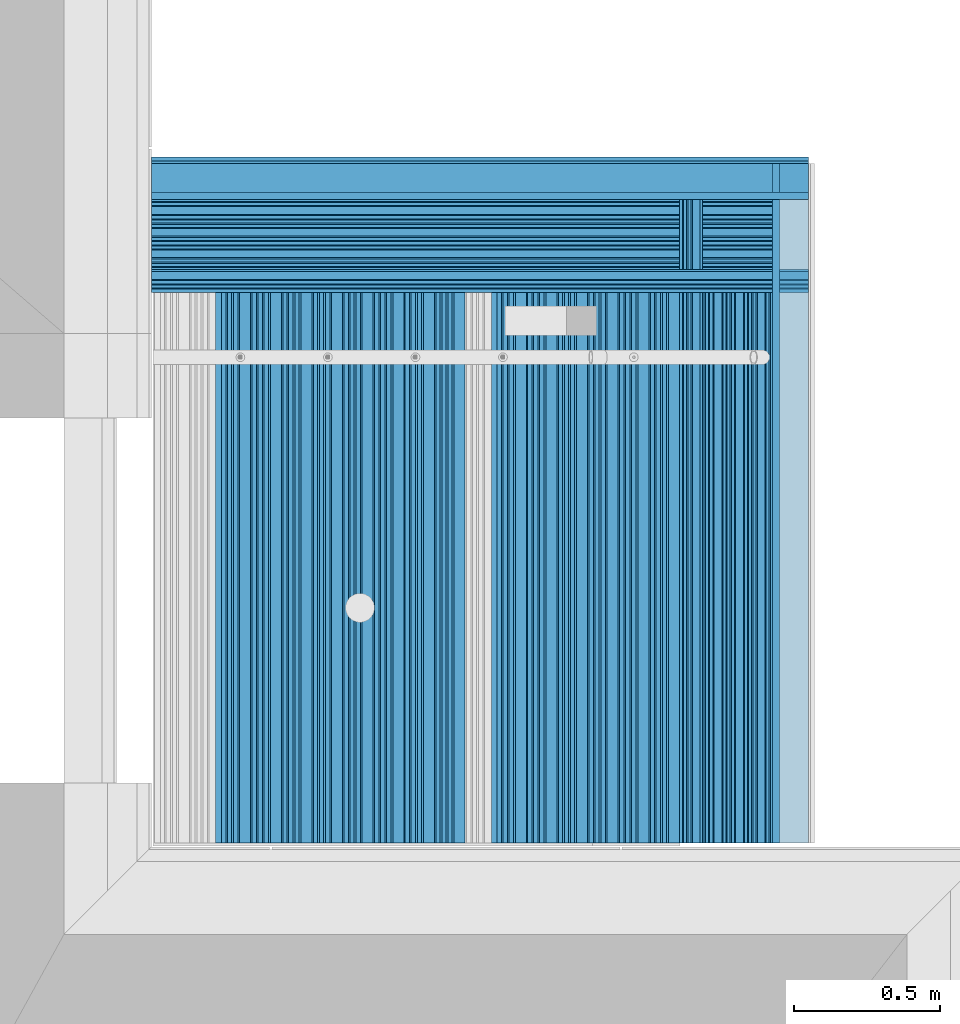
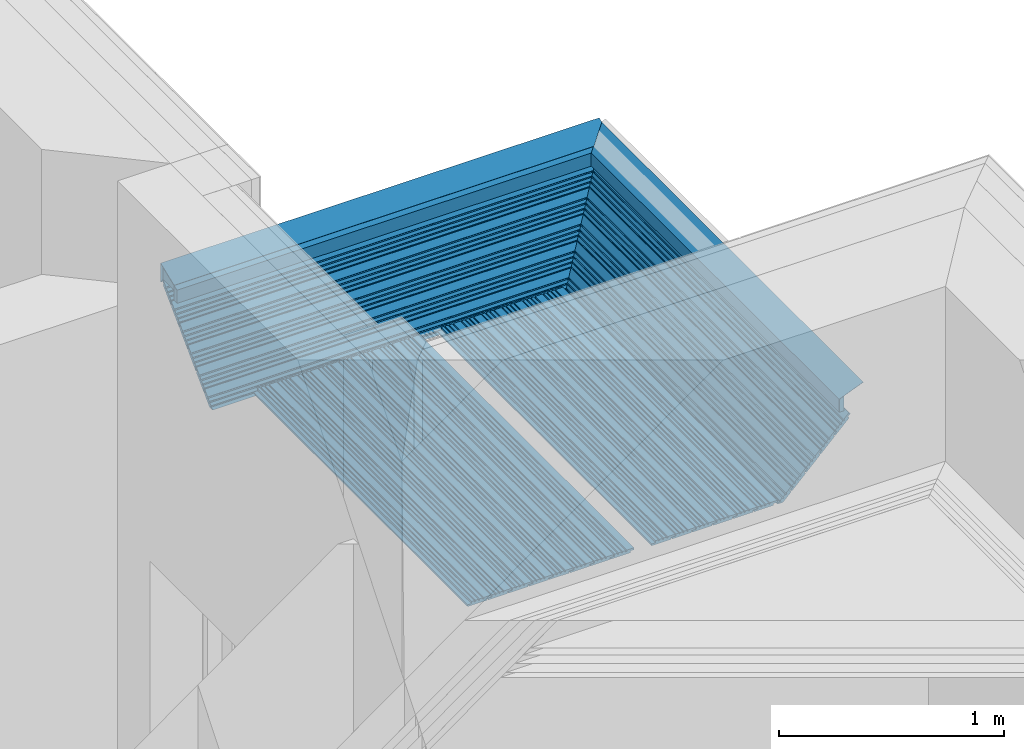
# One storey, part 37 of 418: 31 building element parts, 3 elements without a shape of their own.
"""IFC2X3 building model written with IfcOpenShell, lengths in millimetres."""

from ifc_helpers import new_model, entity, si_unit, converted_unit, derived_unit, money_unit, direction, frame, origin_with_axes, place, context, subcontext, project, spatial, polyline, outline, extrude, material, type_object, element, aggregate, save


model = new_model("IFC2X3")

# Units and contexts
model_context = context("Model", 3, precision=0.01, world=origin_with_axes(), true_north=direction((0.0, 1.0)))
body_context = subcontext(model_context, "Body", "Model", "MODEL_VIEW")
ifc_project = project(units=[si_unit("LENGTHUNIT", "METRE", prefix="MILLI"), si_unit("AREAUNIT", "SQUARE_METRE"), si_unit("VOLUMEUNIT", "CUBIC_METRE"), converted_unit("PLANEANGLEUNIT", "DEGREE", entity("IfcPlaneAngleMeasure", 0.0174532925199), si_unit("PLANEANGLEUNIT", "RADIAN"), dimensions=[0, 0, 0, 0, 0, 0, 0]), si_unit("SOLIDANGLEUNIT", "STERADIAN"), money_unit("EUR"), converted_unit("TIMEUNIT", "Year", entity("IfcTimeMeasure", 31556926.0), si_unit("TIMEUNIT", "SECOND"), dimensions=[0, 0, 1, 0, 0, 0, 0]), si_unit("MASSUNIT", "GRAM", prefix="KILO"), si_unit("THERMODYNAMICTEMPERATUREUNIT", "DEGREE_CELSIUS"), si_unit("LUMINOUSINTENSITYUNIT", "LUMEN"), si_unit("ENERGYUNIT", "JOULE", prefix="MEGA"), derived_unit("THERMALCONDUCTANCEUNIT", [(si_unit("POWERUNIT", "WATT"), 1), (si_unit("LENGTHUNIT", "METRE"), -1), (si_unit("THERMODYNAMICTEMPERATUREUNIT", "KELVIN"), -1)]), derived_unit("SPECIFICHEATCAPACITYUNIT", [(si_unit("ENERGYUNIT", "JOULE"), 1), (si_unit("MASSUNIT", "GRAM", prefix="KILO"), -1), (si_unit("THERMODYNAMICTEMPERATUREUNIT", "KELVIN"), -1)]), derived_unit("MASSDENSITYUNIT", [(si_unit("MASSUNIT", "GRAM", prefix="KILO"), 1), (si_unit("VOLUMEUNIT", "CUBIC_METRE"), -1)])], contexts=[model_context])

# Site, building, storey
site_placement = place(None, origin_with_axes())
site = spatial("IfcSite", under=ifc_project, at=site_placement, Name="Paldiski mnt 245/1, Tallinn, Harjumaa", CompositionType="COMPLEX")
building_placement = place(site_placement, origin_with_axes())
building = spatial("IfcBuilding", under=site, at=building_placement, Name="RKAS Hoone üldnimetus (kasutust iseloomustav) -> IFC Project Manager -> SOLIBRI", CompositionType="ELEMENT")
storey_placement = place(building_placement, origin_with_axes())
storey = spatial("IfcBuildingStorey", under=building, at=storey_placement, Name="Esimene korrus", CompositionType="ELEMENT", Elevation=0.0)

# Proxy, building element parts
building_element_proxy_type_1 = type_object("IfcBuildingElementProxyType", Name="Varikatus_01_02_03_raastas_01_02_03 463 x 518", PredefinedType="NOTDEFINED")
proxy_1_placement = place(storey_placement, frame((-46770.0000001, 8833.7200537, 3002.0), z_axis=(0.0, 0.0, 1.0), x_axis=(1.0, 0.0, 0.0)))
proxy_1 = element("IfcBuildingElementProxy", 1, at=proxy_1_placement, inside=storey, type_object=building_element_proxy_type_1, Name="Varikatus")
ifc_material_1 = material(Name="Laudis 5072 Honka 45 horisontaalne raastas")
building_element_part_1_placement = place(proxy_1_placement, origin_with_axes())
building_element_part_1 = element("IfcBuildingElementPart", 2, at=building_element_part_1_placement, material=ifc_material_1, Name="Laudis 5072 Honka 45 horisontaalne raastas", context=body_context, shape_type="SweptSolid", body=[
    extrude(outline(polyline([(-0.707110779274, -28.991377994), (70.0035572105, -99.7020658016), (77.0746259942, -92.6309996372), (62.9324932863, -78.4888616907), (70.7106681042, -70.7106876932), (60.4037490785, -60.4037652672), (55.4540010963, -65.3535115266), (51.4654463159, -61.3649565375), (56.4151941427, -56.4152087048), (45.9298674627, -45.9298803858), (40.9801194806, -50.8796266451), (36.6477185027, -46.5472250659), (41.5974664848, -41.5974788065), (31.0339169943, -31.0339261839), (26.0841690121, -35.9836724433), (21.5852050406, -31.4847067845), (26.5349528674, -26.5349589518), (0.0, 0.0), (-7.42462197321, -7.42461938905), (6.71751230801, -21.5667571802), (-0.707110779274, -28.991377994)])), frame((0.0, 0.0, 0.0), z_axis=(-1.0, 0.0, 0.0), x_axis=(0.0, -1.0, 0.0)), (0.0, 0.0, -1.0), 2252.35905521),
])
building_element_part_2_placement = place(proxy_1_placement, origin_with_axes())
building_element_part_2 = element("IfcBuildingElementPart", 3, at=building_element_part_2_placement, material=ifc_material_1, Name="Laudis 5072 Honka 45 horisontaalne raastas", context=body_context, shape_type="SweptSolid", body=[
    extrude(outline(polyline([(73.6350649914, -103.3335746), (144.345732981, -174.044262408), (151.416801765, -166.973196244), (137.274669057, -152.831058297), (145.052843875, -145.0528843), (134.745924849, -134.745961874), (129.796176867, -139.695708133), (125.807622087, -135.707153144), (130.757369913, -130.757405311), (120.272043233, -120.272076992), (115.322295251, -125.221823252), (110.989894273, -120.889421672), (115.939642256, -115.939675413), (105.376092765, -105.37612279), (100.426344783, -110.32586905), (95.9273808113, -105.826903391), (100.877128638, -100.877155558), (74.3421757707, -74.3421966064), (66.9175537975, -81.7668159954), (81.0596880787, -95.9089537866), (73.6350649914, -103.3335746)])), frame((0.0, 0.0, 0.0), z_axis=(-1.0, 0.0, 0.0), x_axis=(0.0, -1.0, 0.0)), (0.0, 0.0, -1.0), 2252.35905521),
])
building_element_part_3_placement = place(proxy_1_placement, origin_with_axes())
building_element_part_3 = element("IfcBuildingElementPart", 4, at=building_element_part_3_placement, material=ifc_material_1, Name="Laudis 5072 Honka 45 horisontaalne raastas", context=body_context, shape_type="SweptSolid", body=[
    extrude(outline(polyline([(147.977240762, -177.675771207), (218.687908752, -248.386459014), (225.758977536, -241.31539285), (211.616844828, -227.173254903), (219.395019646, -219.395080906), (209.08810062, -209.08815848), (204.138352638, -214.037904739), (200.149797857, -210.04934975), (205.099545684, -205.099601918), (194.614219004, -194.614273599), (189.664471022, -199.564019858), (185.332070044, -195.231618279), (190.281818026, -190.281872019), (179.718268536, -179.718319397), (174.768520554, -184.668065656), (170.269556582, -180.169099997), (175.219304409, -175.219352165), (148.684351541, -148.684393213), (141.259729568, -156.109012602), (155.401863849, -170.251150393), (147.977240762, -177.675771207)])), frame((0.0, 0.0, 0.0), z_axis=(-1.0, 0.0, 0.0), x_axis=(0.0, -1.0, 0.0)), (0.0, 0.0, -1.0), 2252.35905521),
])
building_element_part_4_placement = place(proxy_1_placement, origin_with_axes())
building_element_part_4 = element("IfcBuildingElementPart", 5, at=building_element_part_4_placement, material=ifc_material_1, Name="Laudis 5072 Honka 45 horisontaalne raastas", context=body_context, shape_type="SweptSolid", body=[
    extrude(outline(polyline([(222.223442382, -251.921993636), (292.934110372, -322.632681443), (300.005179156, -315.561615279), (285.863046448, -301.419477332), (293.641221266, -293.641303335), (283.33430224, -283.334380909), (278.384554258, -288.284127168), (274.395999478, -284.295572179), (279.345747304, -279.345824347), (268.860420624, -268.860496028), (263.910672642, -273.810242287), (259.578271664, -269.477840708), (264.528019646, -264.528094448), (253.964470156, -253.964541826), (249.014722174, -258.914288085), (244.515758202, -254.415322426), (249.465506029, -249.465574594), (222.930553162, -222.930615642), (215.505931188, -230.355235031), (229.64806547, -244.497372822), (222.223442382, -251.921993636)])), frame((0.0, 0.0, 0.0), z_axis=(-1.0, 0.0, 0.0), x_axis=(0.0, -1.0, 0.0)), (0.0, 0.0, -1.0), 2252.35905521),
])
building_element_part_5_placement = place(proxy_1_placement, origin_with_axes())
building_element_part_5 = element("IfcBuildingElementPart", 6, at=building_element_part_5_placement, material=ifc_material_1, Name="Laudis 5072 Honka 45 horisontaalne raastas", context=body_context, shape_type="SweptSolid", body=[
    extrude(outline(polyline([(296.469644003, -326.168216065), (367.180311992, -396.878903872), (374.251380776, -389.807837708), (360.109248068, -375.665699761), (367.887422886, -367.887525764), (357.58050386, -357.580603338), (352.630755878, -362.530349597), (348.642201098, -358.541794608), (353.591948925, -353.592046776), (343.106622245, -343.106718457), (338.156874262, -348.056464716), (333.824473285, -343.724063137), (338.774221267, -338.774316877), (328.210671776, -328.210764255), (323.260923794, -333.160510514), (318.761959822, -328.661544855), (323.711707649, -323.711797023), (297.176754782, -297.176838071), (289.752132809, -304.60145746), (303.89426709, -318.743595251), (296.469644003, -326.168216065)])), frame((0.0, 0.0, 0.0), z_axis=(-1.0, 0.0, 0.0), x_axis=(0.0, -1.0, 0.0)), (0.0, 0.0, -1.0), 2252.35905521),
])
building_element_part_6_placement = place(proxy_1_placement, origin_with_axes())
building_element_part_6 = element("IfcBuildingElementPart", 7, at=building_element_part_6_placement, material=ifc_material_1, Name="Laudis 5072 Honka 45 horisontaalne raastas", context=body_context, shape_type="SweptSolid", body=[
    extrude(outline(polyline([(371.422956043, -371.4230605), (363.998334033, -378.84767996), (378.140468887, -392.989818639), (370.715845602, -400.414438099), (412.435143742, -442.133747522), (442.133623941, -442.133747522), (431.826706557, -431.826826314), (426.876957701, -436.776571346), (422.888402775, -432.78801642), (427.838150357, -427.838270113), (417.352823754, -417.35294096), (412.403076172, -422.302687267), (408.070675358, -417.970285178), (413.02042294, -413.020540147), (402.456873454, -402.456986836), (397.507125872, -407.406731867), (393.00816134, -402.907767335), (397.957910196, -397.958019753), (371.422956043, -371.4230605)])), frame((0.0, 0.0, 0.0), z_axis=(-1.0, 0.0, 0.0), x_axis=(0.0, -1.0, 0.0)), (0.0, 0.0, -1.0), 2252.35905521),
])
ifc_material_2 = material(Name="Puit - Konstruktsioon")
building_element_part_7_placement = place(proxy_1_placement, origin_with_axes())
building_element_part_7 = element("IfcBuildingElementPart", 8, at=building_element_part_7_placement, material=ifc_material_2, Name="Puit - Konstruktsioon", context=body_context, shape_type="SweptSolid", body=[
    extrude(outline(polyline([(1.15655691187e-06, 64.9893416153), (1.15655691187e-06, 4.50304654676e-07), (99.5753771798, 4.50304654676e-07), (99.5753771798, 24.9999969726), (1.15655691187e-06, 64.9893416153)])), frame((0.0, 0.0, 0.0), z_axis=(-1.0, 0.0, 0.0), x_axis=(0.0, -1.0, 0.0)), (0.0, 0.0, -1.0), 2252.35905521),
])
ifc_material_3 = material(Name="RAL7016")
building_element_part_8_placement = place(proxy_1_placement, origin_with_axes())
building_element_part_8 = element("IfcBuildingElementPart", 9, at=building_element_part_8_placement, material=ifc_material_3, Name="RAL7016", context=body_context, shape_type="SweptSolid", body=[
    extrude(outline(polyline([(-20.9999961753, -28.4630715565), (-8.11233371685, -15.5753892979), (-8.81944068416, -14.8682823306), (-20.0, -26.0488592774), (-20.0, 74.5582444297), (99.5753779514, 26.5369258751), (99.9264049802, 27.9350719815), (-20.9999961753, 75.7446341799), (-20.9999961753, -28.4630715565)])), frame((0.0, 0.0, 0.0), z_axis=(-1.0, 0.0, 0.0), x_axis=(0.0, -1.0, 0.0)), (0.0, 0.0, -1.0), 2252.35905521),
])
ifc_material_4 = material(Name="PVC")
building_element_part_9_placement = place(proxy_1_placement, origin_with_axes())
building_element_part_9 = element("IfcBuildingElementPart", 10, at=building_element_part_9_placement, material=ifc_material_4, Name="PVC", context=body_context, shape_type="SweptSolid", body=[
    extrude(outline(polyline([(-8.02250845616e-07, 66.4893437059), (1.06016954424e-06, 64.9893410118), (123.575378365, 15.3616278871), (123.575378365, -54.6383718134), (124.984796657, -54.6383718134), (124.984796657, 16.4879117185), (-8.02250845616e-07, 66.4893437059)])), frame((0.0, 0.0, 0.0), z_axis=(-1.0, 0.0, 0.0), x_axis=(0.0, -1.0, 0.0)), (0.0, 0.0, -1.0), 2252.35905521),
])
ifc_material_5 = material(Name="Veekindel vineer 24 mm")
building_element_part_10_placement = place(proxy_1_placement, origin_with_axes())
building_element_part_10 = element("IfcBuildingElementPart", 11, at=building_element_part_10_placement, material=ifc_material_5, Name="Veekindel vineer 24 mm", context=body_context, shape_type="SweptSolid", body=[
    extrude(outline(polyline([(99.5753780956, 24.99999609), (99.5753780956, -54.6383718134), (123.575378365, -54.6383718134), (123.575378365, 15.3616278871), (99.5753780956, 24.99999609)])), frame((0.0, 0.0, 0.0), z_axis=(-1.0, 0.0, 0.0), x_axis=(0.0, -1.0, 0.0)), (0.0, 0.0, -1.0), 2252.35905521),
])
aggregate(proxy_1, [building_element_part_1, building_element_part_2, building_element_part_3, building_element_part_4, building_element_part_5, building_element_part_6, building_element_part_7, building_element_part_8, building_element_part_9, building_element_part_10])

proxy_2_placement = place(storey_placement, frame((-44517.6409449, 8833.7200537, 3002.0), z_axis=(0.0, 0.0, 1.0), x_axis=(0.0, -1.0, 0.0)))
proxy_2 = element("IfcBuildingElementProxy", 12, at=proxy_2_placement, inside=storey, type_object=building_element_proxy_type_1, Name="Varikatus")
building_element_part_11_placement = place(proxy_2_placement, origin_with_axes())
building_element_part_11 = element("IfcBuildingElementPart", 13, at=building_element_part_11_placement, material=ifc_material_1, Name="Laudis 5072 Honka 45 horisontaalne raastas", context=body_context, shape_type="SweptSolid", body=[
    extrude(outline(polyline([(73.6350649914, -103.3335746), (144.345732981, -174.044262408), (151.416801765, -166.973196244), (137.274669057, -152.831058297), (145.052843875, -145.0528843), (134.745924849, -134.745961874), (129.796176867, -139.695708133), (125.807622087, -135.707153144), (130.757369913, -130.757405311), (120.272043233, -120.272076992), (115.322295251, -125.221823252), (110.989894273, -120.889421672), (115.939642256, -115.939675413), (105.376092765, -105.37612279), (100.426344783, -110.32586905), (95.9273808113, -105.826903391), (100.877128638, -100.877155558), (74.3421757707, -74.3421966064), (66.9175537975, -81.7668159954), (81.0596880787, -95.9089537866), (73.6350649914, -103.3335746)])), frame((0.0, 0.0, 0.0), z_axis=(-1.0, 0.0, 0.0), x_axis=(0.0, -1.0, 0.0)), (0.0, 0.0, -1.0), 2329.49919644),
])
building_element_part_12_placement = place(proxy_2_placement, origin_with_axes())
building_element_part_12 = element("IfcBuildingElementPart", 14, at=building_element_part_12_placement, material=ifc_material_1, Name="Laudis 5072 Honka 45 horisontaalne raastas", context=body_context, shape_type="SweptSolid", body=[
    extrude(outline(polyline([(147.977240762, -177.675771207), (218.687908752, -248.386459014), (225.758977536, -241.31539285), (211.616844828, -227.173254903), (219.395019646, -219.395080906), (209.08810062, -209.08815848), (204.138352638, -214.037904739), (200.149797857, -210.04934975), (205.099545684, -205.099601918), (194.614219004, -194.614273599), (189.664471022, -199.564019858), (185.332070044, -195.231618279), (190.281818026, -190.281872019), (179.718268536, -179.718319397), (174.768520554, -184.668065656), (170.269556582, -180.169099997), (175.219304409, -175.219352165), (148.684351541, -148.684393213), (141.259729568, -156.109012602), (155.401863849, -170.251150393), (147.977240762, -177.675771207)])), frame((0.0, 0.0, 0.0), z_axis=(-1.0, 0.0, 0.0), x_axis=(0.0, -1.0, 0.0)), (0.0, 0.0, -1.0), 2329.49919644),
])
building_element_part_13_placement = place(proxy_2_placement, origin_with_axes())
building_element_part_13 = element("IfcBuildingElementPart", 15, at=building_element_part_13_placement, material=ifc_material_1, Name="Laudis 5072 Honka 45 horisontaalne raastas", context=body_context, shape_type="SweptSolid", body=[
    extrude(outline(polyline([(222.223442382, -251.921993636), (292.934110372, -322.632681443), (300.005179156, -315.561615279), (285.863046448, -301.419477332), (293.641221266, -293.641303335), (283.33430224, -283.334380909), (278.384554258, -288.284127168), (274.395999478, -284.295572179), (279.345747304, -279.345824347), (268.860420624, -268.860496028), (263.910672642, -273.810242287), (259.578271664, -269.477840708), (264.528019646, -264.528094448), (253.964470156, -253.964541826), (249.014722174, -258.914288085), (244.515758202, -254.415322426), (249.465506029, -249.465574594), (222.930553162, -222.930615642), (215.505931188, -230.355235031), (229.64806547, -244.497372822), (222.223442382, -251.921993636)])), frame((0.0, 0.0, 0.0), z_axis=(-1.0, 0.0, 0.0), x_axis=(0.0, -1.0, 0.0)), (0.0, 0.0, -1.0), 2329.49919644),
])
building_element_part_14_placement = place(proxy_2_placement, origin_with_axes())
building_element_part_14 = element("IfcBuildingElementPart", 16, at=building_element_part_14_placement, material=ifc_material_1, Name="Laudis 5072 Honka 45 horisontaalne raastas", context=body_context, shape_type="SweptSolid", body=[
    extrude(outline(polyline([(296.469644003, -326.168216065), (367.180311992, -396.878903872), (374.251380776, -389.807837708), (360.109248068, -375.665699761), (367.887422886, -367.887525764), (357.58050386, -357.580603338), (352.630755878, -362.530349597), (348.642201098, -358.541794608), (353.591948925, -353.592046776), (343.106622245, -343.106718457), (338.156874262, -348.056464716), (333.824473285, -343.724063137), (338.774221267, -338.774316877), (328.210671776, -328.210764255), (323.260923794, -333.160510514), (318.761959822, -328.661544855), (323.711707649, -323.711797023), (297.176754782, -297.176838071), (289.752132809, -304.60145746), (303.89426709, -318.743595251), (296.469644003, -326.168216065)])), frame((0.0, 0.0, 0.0), z_axis=(-1.0, 0.0, 0.0), x_axis=(0.0, -1.0, 0.0)), (0.0, 0.0, -1.0), 2329.49919644),
])
building_element_part_15_placement = place(proxy_2_placement, origin_with_axes())
building_element_part_15 = element("IfcBuildingElementPart", 17, at=building_element_part_15_placement, material=ifc_material_1, Name="Laudis 5072 Honka 45 horisontaalne raastas", context=body_context, shape_type="SweptSolid", body=[
    extrude(outline(polyline([(371.422956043, -371.4230605), (363.998334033, -378.84767996), (378.140468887, -392.989818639), (370.715845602, -400.414438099), (412.435143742, -442.133747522), (442.133623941, -442.133747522), (431.826706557, -431.826826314), (426.876957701, -436.776571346), (422.888402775, -432.78801642), (427.838150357, -427.838270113), (417.352823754, -417.35294096), (412.403076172, -422.302687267), (408.070675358, -417.970285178), (413.02042294, -413.020540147), (402.456873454, -402.456986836), (397.507125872, -407.406731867), (393.00816134, -402.907767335), (397.957910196, -397.958019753), (371.422956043, -371.4230605)])), frame((0.0, 0.0, 0.0), z_axis=(-1.0, 0.0, 0.0), x_axis=(0.0, -1.0, 0.0)), (0.0, 0.0, -1.0), 2329.49919644),
])
building_element_part_16_placement = place(proxy_2_placement, origin_with_axes())
building_element_part_16 = element("IfcBuildingElementPart", 18, at=building_element_part_16_placement, material=ifc_material_4, Name="PVC", context=body_context, shape_type="SweptSolid", body=[
    extrude(outline(polyline([(-8.02250845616e-07, 66.4893437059), (1.06016954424e-06, 64.9893410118), (123.575378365, 15.3616278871), (123.575378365, -54.6383718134), (124.984796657, -54.6383718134), (124.984796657, 16.4879117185), (-8.02250845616e-07, 66.4893437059)])), frame((0.0, 0.0, 0.0), z_axis=(-1.0, 0.0, 0.0), x_axis=(0.0, -1.0, 0.0)), (0.0, 0.0, -1.0), 2329.49919644),
])
building_element_part_17_placement = place(proxy_2_placement, origin_with_axes())
building_element_part_17 = element("IfcBuildingElementPart", 19, at=building_element_part_17_placement, material=ifc_material_5, Name="Veekindel vineer 24 mm", context=body_context, shape_type="SweptSolid", body=[
    extrude(outline(polyline([(99.5753780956, 24.99999609), (99.5753780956, -54.6383718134), (123.575378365, -54.6383718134), (123.575378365, 15.3616278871), (99.5753780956, 24.99999609)])), frame((0.0, 0.0, 0.0), z_axis=(-1.0, 0.0, 0.0), x_axis=(0.0, -1.0, 0.0)), (0.0, 0.0, -1.0), 2329.49919644),
])
aggregate(proxy_2, [building_element_part_11, building_element_part_12, building_element_part_13, building_element_part_14, building_element_part_15, building_element_part_16, building_element_part_17])

building_element_proxy_type_2 = type_object("IfcBuildingElementProxyType", Name="Varikatus_02_03_lagi laudis_02_03 1800 x 21", PredefinedType="NOTDEFINED")
proxy_3_placement = place(storey_placement, frame((-44959.7745692, 8833.7200537, 2580.99999904), z_axis=(0.0, 0.0, 1.0), x_axis=(0.0, -1.0, 0.0)))
proxy_3 = element("IfcBuildingElementProxy", 20, at=proxy_3_placement, inside=storey, type_object=building_element_proxy_type_2, Name="Varikatus")
building_element_part_18_placement = place(proxy_3_placement, origin_with_axes())
building_element_part_18 = element("IfcBuildingElementPart", 21, at=building_element_part_18_placement, material=ifc_material_1, Name="Laudis 5072 Honka 45 horisontaalne raastas", context=body_context, shape_type="SweptSolid", body=[
    extrude(outline(polyline([(20.0000000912, -20.9999999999), (119.99999978, -20.9999999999), (120.000000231, -11.0000004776), (100.00000065, -10.999999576), (99.9999996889, 1.61838542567e-07), (85.4238126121, 5.2358295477e-07), (85.4238123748, -6.99999898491), (79.7831439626, -6.9999996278), (79.7831429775, 8.83371598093e-07), (64.9546506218, -3.56328300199e-08), (64.9546503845, -6.99999954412), (58.8277097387, -6.99999997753), (58.8277099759, -4.69029259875e-07), (43.8885928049, -3.47782691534e-07), (43.8885925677, -6.99999985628), (37.5260955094, -6.99999955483), (37.5260945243, 9.56347889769e-07), (0.0, 0.0), (-3.55868667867e-07, -10.4999992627), (20.0000002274, -10.499998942), (20.0000000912, -20.9999999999)])), frame((0.0, 0.0, 0.0), z_axis=(-1.0, 0.0, 0.0), x_axis=(0.0, -1.0, 0.0)), (0.0, 0.0, -1.0), 2329.49919644),
])
building_element_part_19_placement = place(proxy_3_placement, origin_with_axes())
building_element_part_19 = element("IfcBuildingElementPart", 22, at=building_element_part_19_placement, material=ifc_material_1, Name="Laudis 5072 Honka 45 horisontaalne raastas", context=body_context, shape_type="SweptSolid", body=[
    extrude(outline(polyline([(125.135728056, -20.9999999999), (225.135727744, -20.9999999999), (225.135728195, -11.0000004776), (205.135728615, -10.999999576), (205.135727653, 1.61839430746e-07), (190.559540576, 5.23583842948e-07), (190.559540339, -6.99999898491), (184.918871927, -6.9999996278), (184.918870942, 8.83374262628e-07), (170.090378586, -3.56301654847e-08), (170.090378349, -6.99999954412), (163.963437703, -6.99999997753), (163.96343794, -4.69028371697e-07), (149.024320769, -3.47782247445e-07), (149.024320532, -6.99999985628), (142.661823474, -6.99999955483), (142.661822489, 9.56348777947e-07), (105.135727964, 0.0), (105.135727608, -10.4999992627), (125.135728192, -10.499998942), (125.135728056, -20.9999999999)])), frame((0.0, 0.0, 0.0), z_axis=(-1.0, 0.0, 0.0), x_axis=(0.0, -1.0, 0.0)), (0.0, 0.0, -1.0), 2329.49919644),
])
building_element_part_20_placement = place(proxy_3_placement, origin_with_axes())
building_element_part_20 = element("IfcBuildingElementPart", 23, at=building_element_part_20_placement, material=ifc_material_1, Name="Laudis 5072 Honka 45 horisontaalne raastas", context=body_context, shape_type="SweptSolid", body=[
    extrude(outline(polyline([(230.27145602, -20.9999999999), (330.271455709, -20.9999999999), (330.27145616, -11.0000004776), (310.271456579, -10.999999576), (310.271455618, 1.61839874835e-07), (295.695268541, 5.23584731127e-07), (295.695268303, -6.99999898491), (290.054599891, -6.9999996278), (290.054598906, 8.83375150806e-07), (275.22610655, -3.56292773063e-08), (275.226106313, -6.99999954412), (269.099165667, -6.99999997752), (269.099165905, -4.69027927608e-07), (254.160048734, -3.47781359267e-07), (254.160048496, -6.99999985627), (247.797551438, -6.99999955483), (247.797550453, 9.56348777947e-07), (210.271455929, 0.0), (210.271455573, -10.4999992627), (230.271456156, -10.499998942), (230.27145602, -20.9999999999)])), frame((0.0, 0.0, 0.0), z_axis=(-1.0, 0.0, 0.0), x_axis=(0.0, -1.0, 0.0)), (0.0, 0.0, -1.0), 2329.49919644),
])
building_element_part_21_placement = place(proxy_3_placement, origin_with_axes())
building_element_part_21 = element("IfcBuildingElementPart", 24, at=building_element_part_21_placement, material=ifc_material_1, Name="Laudis 5072 Honka 45 horisontaalne raastas", context=body_context, shape_type="SweptSolid", body=[
    extrude(outline(polyline([(335.27145602, -20.9999999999), (435.271455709, -20.9999999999), (435.27145616, -11.0000004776), (415.271456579, -10.999999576), (415.271455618, 1.61842983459e-07), (400.695268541, 5.23587395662e-07), (400.695268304, -6.99999898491), (395.054599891, -6.9999996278), (395.054598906, 8.8337337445e-07), (380.22610655, -3.56310536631e-08), (380.226106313, -6.99999954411), (374.099165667, -6.99999997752), (374.099165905, -4.69027483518e-07), (359.160048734, -3.47778250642e-07), (359.160048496, -6.99999985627), (352.797551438, -6.99999955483), (352.797550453, 9.56352330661e-07), (315.271455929, 0.0), (315.271455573, -10.4999992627), (335.271456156, -10.499998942), (335.27145602, -20.9999999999)])), frame((0.0, 0.0, 0.0), z_axis=(-1.0, 0.0, 0.0), x_axis=(0.0, -1.0, 0.0)), (0.0, 0.0, -1.0), 2329.49919644),
])
building_element_part_22_placement = place(proxy_3_placement, origin_with_axes())
building_element_part_22 = element("IfcBuildingElementPart", 25, at=building_element_part_22_placement, material=ifc_material_1, Name="Laudis 5072 Honka 45 horisontaalne raastas", context=body_context, shape_type="SweptSolid", body=[
    extrude(outline(polyline([(440.27145602, -20.9999999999), (540.271455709, -20.9999999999), (540.27145616, -11.0000004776), (520.271456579, -10.999999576), (520.271455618, 1.61841207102e-07), (505.695268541, 5.23587839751e-07), (505.695268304, -6.99999898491), (500.054599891, -6.9999996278), (500.054598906, 8.83376927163e-07), (485.22610655, -3.56279450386e-08), (485.226106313, -6.99999954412), (479.099165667, -6.99999997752), (479.099165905, -4.69026151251e-07), (464.160048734, -3.47777806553e-07), (464.160048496, -6.99999985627), (457.797551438, -6.99999955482), (457.797550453, 9.56350110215e-07), (420.271455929, 0.0), (420.271455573, -10.4999992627), (440.271456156, -10.499998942), (440.27145602, -20.9999999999)])), frame((0.0, 0.0, 0.0), z_axis=(-1.0, 0.0, 0.0), x_axis=(0.0, -1.0, 0.0)), (0.0, 0.0, -1.0), 2329.49919644),
])
building_element_part_23_placement = place(proxy_3_placement, origin_with_axes())
building_element_part_23 = element("IfcBuildingElementPart", 26, at=building_element_part_23_placement, material=ifc_material_1, Name="Laudis 5072 Honka 45 horisontaalne raastas", context=body_context, shape_type="SweptSolid", body=[
    extrude(outline(polyline([(545.216857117, -20.9999999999), (645.216856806, -20.9999999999), (645.216857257, -11.0000004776), (625.216857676, -10.999999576), (625.216856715, 1.61841207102e-07), (610.640669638, 5.23587839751e-07), (610.640669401, -6.99999898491), (605.000000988, -6.9999996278), (605.000000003, 8.83376927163e-07), (590.171507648, -3.56279450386e-08), (590.17150741, -6.99999954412), (584.044566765, -6.99999997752), (584.044567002, -4.69026151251e-07), (569.105449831, -3.47777806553e-07), (569.105449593, -6.99999985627), (562.742952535, -6.99999955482), (562.74295155, 9.56350110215e-07), (525.216857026, 0.0), (525.21685667, -10.4999992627), (545.216857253, -10.499998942), (545.216857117, -20.9999999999)])), frame((0.0, 0.0, 0.0), z_axis=(-1.0, 0.0, 0.0), x_axis=(0.0, -1.0, 0.0)), (0.0, 0.0, -1.0), 2329.49919644),
])
building_element_part_24_placement = place(proxy_3_placement, origin_with_axes())
building_element_part_24 = element("IfcBuildingElementPart", 27, at=building_element_part_24_placement, material=ifc_material_1, Name="Laudis 5072 Honka 45 horisontaalne raastas", context=body_context, shape_type="SweptSolid", body=[
    extrude(outline(polyline([(755.162258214, -20.9999999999), (855.162257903, -20.9999999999), (855.162258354, -11.0000004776), (835.162258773, -10.999999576), (835.162257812, 1.61842983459e-07), (820.586070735, 5.23587395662e-07), (820.586070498, -6.99999898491), (814.945402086, -6.9999996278), (814.9454011, 8.8337337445e-07), (800.116908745, -3.56310536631e-08), (800.116908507, -6.99999954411), (793.989967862, -6.99999997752), (793.989968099, -4.69027483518e-07), (779.050850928, -3.47778250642e-07), (779.050850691, -6.99999985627), (772.688353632, -6.99999955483), (772.688352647, 9.56352330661e-07), (735.162258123, 0.0), (735.162257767, -10.4999992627), (755.16225835, -10.499998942), (755.162258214, -20.9999999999)])), frame((0.0, 0.0, 0.0), z_axis=(-1.0, 0.0, 0.0), x_axis=(0.0, -1.0, 0.0)), (0.0, 0.0, -1.0), 2329.49919644),
])
building_element_part_25_placement = place(proxy_3_placement, origin_with_axes())
building_element_part_25 = element("IfcBuildingElementPart", 28, at=building_element_part_25_placement, material=ifc_material_1, Name="Laudis 5072 Honka 45 horisontaalne raastas", context=body_context, shape_type="SweptSolid", body=[
    extrude(outline(polyline([(860.162258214, -20.9999999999), (960.162257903, -20.9999999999), (960.162258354, -11.0000004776), (940.162258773, -10.999999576), (940.162257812, 1.61841207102e-07), (925.586070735, 5.23587839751e-07), (925.586070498, -6.99999898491), (919.945402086, -6.9999996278), (919.9454011, 8.83376927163e-07), (905.116908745, -3.56279450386e-08), (905.116908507, -6.99999954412), (898.989967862, -6.99999997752), (898.989968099, -4.69026151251e-07), (884.050850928, -3.47777806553e-07), (884.050850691, -6.99999985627), (877.688353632, -6.99999955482), (877.688352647, 9.56350110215e-07), (840.162258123, 0.0), (840.162257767, -10.4999992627), (860.16225835, -10.499998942), (860.162258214, -20.9999999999)])), frame((0.0, 0.0, 0.0), z_axis=(-1.0, 0.0, 0.0), x_axis=(0.0, -1.0, 0.0)), (0.0, 0.0, -1.0), 2329.49919644),
])
building_element_part_26_placement = place(proxy_3_placement, origin_with_axes())
building_element_part_26 = element("IfcBuildingElementPart", 29, at=building_element_part_26_placement, material=ifc_material_1, Name="Laudis 5072 Honka 45 horisontaalne raastas", context=body_context, shape_type="SweptSolid", body=[
    extrude(outline(polyline([(965.107659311, -20.9999999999), (1065.107659, -20.9999999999), (1065.10765945, -11.0000004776), (1045.10765987, -10.999999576), (1045.10765891, 1.61841207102e-07), (1030.53147183, 5.23587839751e-07), (1030.53147159, -6.99999898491), (1024.89080318, -6.9999996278), (1024.8908022, 8.83376927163e-07), (1010.06230984, -3.56279450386e-08), (1010.0623096, -6.99999954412), (1003.93536896, -6.99999997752), (1003.9353692, -4.69026151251e-07), (988.996252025, -3.47777806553e-07), (988.996251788, -6.99999985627), (982.633754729, -6.99999955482), (982.633753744, 9.56350110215e-07), (945.10765922, 0.0), (945.107658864, -10.4999992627), (965.107659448, -10.499998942), (965.107659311, -20.9999999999)])), frame((0.0, 0.0, 0.0), z_axis=(-1.0, 0.0, 0.0), x_axis=(0.0, -1.0, 0.0)), (0.0, 0.0, -1.0), 2329.49919644),
])
building_element_part_27_placement = place(proxy_3_placement, origin_with_axes())
building_element_part_27 = element("IfcBuildingElementPart", 30, at=building_element_part_27_placement, material=ifc_material_1, Name="Laudis 5072 Honka 45 horisontaalne raastas", context=body_context, shape_type="SweptSolid", body=[
    extrude(outline(polyline([(1070.05306041, -20.9999999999), (1170.0530601, -20.9999999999), (1170.05306055, -11.0000004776), (1150.05306097, -10.999999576), (1150.05306001, 1.61841207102e-07), (1135.47687293, 5.23587839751e-07), (1135.47687269, -6.99999898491), (1129.83620428, -6.9999996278), (1129.83620329, 8.83376927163e-07), (1115.00771094, -3.56279450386e-08), (1115.0077107, -6.99999954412), (1108.88077006, -6.99999997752), (1108.88077029, -4.69026151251e-07), (1093.94165312, -3.47777806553e-07), (1093.94165288, -6.99999985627), (1087.57915583, -6.99999955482), (1087.57915484, 9.56350110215e-07), (1050.05306032, 0.0), (1050.05305996, -10.4999992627), (1070.05306054, -10.499998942), (1070.05306041, -20.9999999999)])), frame((0.0, 0.0, 0.0), z_axis=(-1.0, 0.0, 0.0), x_axis=(0.0, -1.0, 0.0)), (0.0, 0.0, -1.0), 2329.49919644),
])
building_element_part_28_placement = place(proxy_3_placement, origin_with_axes())
building_element_part_28 = element("IfcBuildingElementPart", 31, at=building_element_part_28_placement, material=ifc_material_1, Name="Laudis 5072 Honka 45 horisontaalne raastas", context=body_context, shape_type="SweptSolid", body=[
    extrude(outline(polyline([(1174.99846151, -20.9999999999), (1274.99846119, -20.9999999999), (1274.99846165, -11.0000004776), (1254.99846206, -10.999999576), (1254.9984611, 1.61841207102e-07), (1240.42227403, 5.23587839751e-07), (1240.42227379, -6.99999898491), (1234.78160538, -6.9999996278), (1234.78160439, 8.83376927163e-07), (1219.95311204, -3.56279450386e-08), (1219.9531118, -6.99999954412), (1213.82617115, -6.99999997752), (1213.82617139, -4.69026151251e-07), (1198.88705422, -3.47777806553e-07), (1198.88705398, -6.99999985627), (1192.52455692, -6.99999955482), (1192.52455594, 9.56350110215e-07), (1154.99846141, 0.0), (1154.99846106, -10.4999992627), (1174.99846164, -10.499998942), (1174.99846151, -20.9999999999)])), frame((0.0, 0.0, 0.0), z_axis=(-1.0, 0.0, 0.0), x_axis=(0.0, -1.0, 0.0)), (0.0, 0.0, -1.0), 2329.49919644),
])
building_element_part_29_placement = place(proxy_3_placement, origin_with_axes())
building_element_part_29 = element("IfcBuildingElementPart", 32, at=building_element_part_29_placement, material=ifc_material_1, Name="Laudis 5072 Honka 45 horisontaalne raastas", context=body_context, shape_type="SweptSolid", body=[
    extrude(outline(polyline([(1279.9438626, -20.9999999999), (1379.94386229, -20.9999999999), (1379.94386274, -11.0000004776), (1359.94386316, -10.999999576), (1359.9438622, 1.61841207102e-07), (1345.36767512, 5.23587839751e-07), (1345.36767489, -6.99999898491), (1339.72700647, -6.9999996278), (1339.72700549, 8.83376927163e-07), (1324.89851313, -3.56279450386e-08), (1324.8985129, -6.99999954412), (1318.77157225, -6.99999997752), (1318.77157249, -4.69026151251e-07), (1303.83245532, -3.47777806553e-07), (1303.83245508, -6.99999985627), (1297.46995802, -6.99999955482), (1297.46995704, 9.56350110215e-07), (1259.94386251, 0.0), (1259.94386216, -10.4999992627), (1279.94386274, -10.499998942), (1279.9438626, -20.9999999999)])), frame((0.0, 0.0, 0.0), z_axis=(-1.0, 0.0, 0.0), x_axis=(0.0, -1.0, 0.0)), (0.0, 0.0, -1.0), 2329.49919644),
])
building_element_part_30_placement = place(proxy_3_placement, origin_with_axes())
building_element_part_30 = element("IfcBuildingElementPart", 33, at=building_element_part_30_placement, material=ifc_material_1, Name="Laudis 5072 Honka 45 horisontaalne raastas", context=body_context, shape_type="SweptSolid", body=[
    extrude(outline(polyline([(1384.9438626, -20.9999999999), (1484.94386229, -20.9999999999), (1484.94386274, -11.0000004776), (1464.94386316, -10.999999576), (1464.9438622, 1.61842983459e-07), (1450.36767512, 5.23587395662e-07), (1450.36767489, -6.99999898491), (1444.72700647, -6.9999996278), (1444.72700549, 8.8337337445e-07), (1429.89851313, -3.56310536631e-08), (1429.8985129, -6.99999954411), (1423.77157225, -6.99999997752), (1423.77157249, -4.69027483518e-07), (1408.83245532, -3.47778250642e-07), (1408.83245508, -6.99999985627), (1402.46995802, -6.99999955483), (1402.46995704, 9.56352330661e-07), (1364.94386251, 0.0), (1364.94386216, -10.4999992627), (1384.94386274, -10.499998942), (1384.9438626, -20.9999999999)])), frame((0.0, 0.0, 0.0), z_axis=(-1.0, 0.0, 0.0), x_axis=(0.0, -1.0, 0.0)), (0.0, 0.0, -1.0), 2329.49919644),
])
building_element_part_31_placement = place(proxy_3_placement, origin_with_axes())
building_element_part_31 = element("IfcBuildingElementPart", 34, at=building_element_part_31_placement, material=ifc_material_1, Name="Laudis 5072 Honka 45 horisontaalne raastas", context=body_context, shape_type="SweptSolid", body=[
    extrude(outline(polyline([(1489.9438626, -20.9999999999), (1589.94386229, -20.9999999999), (1589.94386274, -11.0000004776), (1569.94386316, -10.999999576), (1569.9438622, 1.61841207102e-07), (1555.36767512, 5.23587839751e-07), (1555.36767489, -6.99999898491), (1549.72700647, -6.9999996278), (1549.72700549, 8.83376927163e-07), (1534.89851313, -3.56279450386e-08), (1534.8985129, -6.99999954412), (1528.77157225, -6.99999997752), (1528.77157249, -4.69026151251e-07), (1513.83245532, -3.47777806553e-07), (1513.83245508, -6.99999985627), (1507.46995802, -6.99999955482), (1507.46995704, 9.56350110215e-07), (1469.94386251, 0.0), (1469.94386216, -10.4999992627), (1489.94386274, -10.499998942), (1489.9438626, -20.9999999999)])), frame((0.0, 0.0, 0.0), z_axis=(-1.0, 0.0, 0.0), x_axis=(0.0, -1.0, 0.0)), (0.0, 0.0, -1.0), 2329.49919644),
])
aggregate(proxy_3, [building_element_part_18, building_element_part_19, building_element_part_20, building_element_part_21, building_element_part_22, building_element_part_23, building_element_part_24, building_element_part_25, building_element_part_26, building_element_part_27, building_element_part_28, building_element_part_29, building_element_part_30, building_element_part_31])

save(model, "model.ifc")
